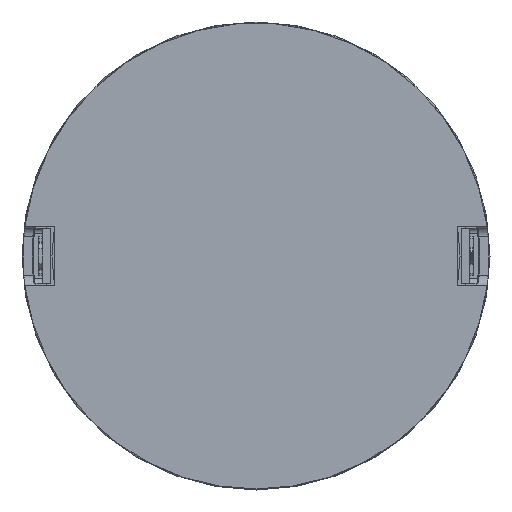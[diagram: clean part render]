
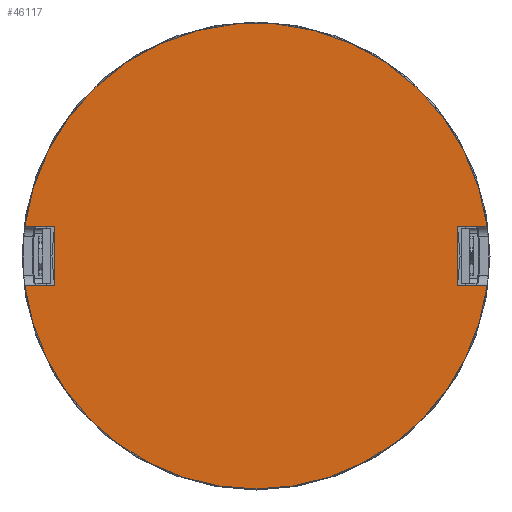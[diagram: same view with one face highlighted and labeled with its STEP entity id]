
A CAD part, front view. The second image highlights one B-rep face of the part: STEP entity #46117.
In plain terms, the highlighted planar face has unit normal (0, -1, 0).
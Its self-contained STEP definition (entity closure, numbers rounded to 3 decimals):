
#493 = DIRECTION ( 'NONE',  ( 0., -1., 0. ) ) ;
#1606 = DIRECTION ( 'NONE',  ( 0., 0., -1. ) ) ;
#2984 = PLANE ( 'NONE',  #97011 ) ;
#7033 = CARTESIAN_POINT ( 'NONE',  ( -37., -81.08, 5.5 ) ) ;
#13568 = DIRECTION ( 'NONE',  ( 0., -1., 0. ) ) ;
#17260 = VECTOR ( 'NONE', #1606, 1000. ) ;
#17331 = CARTESIAN_POINT ( 'NONE',  ( 37., -81.08, -5.5 ) ) ;
#18997 = EDGE_CURVE ( 'NONE', #104712, #93857, #107321, .T. ) ;
#23590 = CARTESIAN_POINT ( 'NONE',  ( 37., -81.08, -5.5 ) ) ;
#24055 = VECTOR ( 'NONE', #70528, 1000. ) ;
#29225 = CARTESIAN_POINT ( 'NONE',  ( -37., -81.08, 5.5 ) ) ;
#30011 = ORIENTED_EDGE ( 'NONE', *, *, #86126, .F. ) ;
#30545 = CARTESIAN_POINT ( 'NONE',  ( 0., -81.08, 0. ) ) ;
#33012 = CARTESIAN_POINT ( 'NONE',  ( 0., -81.08, 0. ) ) ;
#38612 = FACE_OUTER_BOUND ( 'NONE', #44935, .T. ) ;
#39006 = EDGE_CURVE ( 'NONE', #111892, #93857, #106182, .T. ) ;
#44678 = CARTESIAN_POINT ( 'NONE',  ( 0., -81.08, 5.5 ) ) ;
#44935 = EDGE_LOOP ( 'NONE', ( #69344, #30011, #73435, #56126, #96721, #118951, #59610, #96232 ) ) ;
#45025 = CARTESIAN_POINT ( 'NONE',  ( 42.445, -81.08, -5.5 ) ) ;
#46117 = ADVANCED_FACE ( 'NONE', ( #38612 ), #2984, .T. ) ;
#48037 = EDGE_CURVE ( 'NONE', #64872, #90675, #80884, .T. ) ;
#48738 = DIRECTION ( 'NONE',  ( 0., 0., -1. ) ) ;
#49786 = LINE ( 'NONE', #79426, #24055 ) ;
#53229 = EDGE_CURVE ( 'NONE', #96401, #90675, #54862, .T. ) ;
#53543 = AXIS2_PLACEMENT_3D ( 'NONE', #30545, #493, #48738 ) ;
#54862 = CIRCLE ( 'NONE', #53543, 42.8 ) ;
#55165 = LINE ( 'NONE', #97676, #17260 ) ;
#56126 = ORIENTED_EDGE ( 'NONE', *, *, #39006, .T. ) ;
#58551 = DIRECTION ( 'NONE',  ( 0., 0., -1. ) ) ;
#58692 = DIRECTION ( 'NONE',  ( -1., 0., 0. ) ) ;
#59610 = ORIENTED_EDGE ( 'NONE', *, *, #106199, .F. ) ;
#64872 = VERTEX_POINT ( 'NONE', #29225 ) ;
#66972 = VECTOR ( 'NONE', #122417, 1000. ) ;
#68328 = DIRECTION ( 'NONE',  ( 0., -1., 0. ) ) ;
#68531 = LINE ( 'NONE', #7033, #118344 ) ;
#69344 = ORIENTED_EDGE ( 'NONE', *, *, #48037, .F. ) ;
#70001 = CARTESIAN_POINT ( 'NONE',  ( -42.445, -81.08, -5.5 ) ) ;
#70528 = DIRECTION ( 'NONE',  ( 1., 0., 0. ) ) ;
#71423 = AXIS2_PLACEMENT_3D ( 'NONE', #106384, #68328, #58551 ) ;
#73435 = ORIENTED_EDGE ( 'NONE', *, *, #110692, .F. ) ;
#76168 = CARTESIAN_POINT ( 'NONE',  ( -42.445, -81.08, 5.5 ) ) ;
#79317 = VECTOR ( 'NONE', #58692, 1000. ) ;
#79426 = CARTESIAN_POINT ( 'NONE',  ( 0., -81.08, -5.5 ) ) ;
#80884 = LINE ( 'NONE', #107750, #79317 ) ;
#81265 = VERTEX_POINT ( 'NONE', #106487 ) ;
#85491 = CARTESIAN_POINT ( 'NONE',  ( 37., -81.08, 5.5 ) ) ;
#85556 = CARTESIAN_POINT ( 'NONE',  ( 42.445, -81.08, 5.5 ) ) ;
#86126 = EDGE_CURVE ( 'NONE', #81265, #64872, #68531, .T. ) ;
#89289 = DIRECTION ( 'NONE',  ( 0., 0., -1. ) ) ;
#90675 = VERTEX_POINT ( 'NONE', #76168 ) ;
#92145 = VECTOR ( 'NONE', #113343, 1000. ) ;
#93857 = VERTEX_POINT ( 'NONE', #45025 ) ;
#96232 = ORIENTED_EDGE ( 'NONE', *, *, #53229, .T. ) ;
#96401 = VERTEX_POINT ( 'NONE', #85556 ) ;
#96721 = ORIENTED_EDGE ( 'NONE', *, *, #18997, .F. ) ;
#97011 = AXIS2_PLACEMENT_3D ( 'NONE', #33012, #13568, #89289 ) ;
#97676 = CARTESIAN_POINT ( 'NONE',  ( 37., -81.08, 5.5 ) ) ;
#103029 = DIRECTION ( 'NONE',  ( 0., 0., 1. ) ) ;
#104381 = VERTEX_POINT ( 'NONE', #85491 ) ;
#104712 = VERTEX_POINT ( 'NONE', #23590 ) ;
#106182 = CIRCLE ( 'NONE', #71423, 42.8 ) ;
#106199 = EDGE_CURVE ( 'NONE', #96401, #104381, #112273, .T. ) ;
#106384 = CARTESIAN_POINT ( 'NONE',  ( 0., -81.08, 0. ) ) ;
#106487 = CARTESIAN_POINT ( 'NONE',  ( -37., -81.08, -5.5 ) ) ;
#107321 = LINE ( 'NONE', #17331, #92145 ) ;
#107750 = CARTESIAN_POINT ( 'NONE',  ( -37., -81.08, 5.5 ) ) ;
#110692 = EDGE_CURVE ( 'NONE', #111892, #81265, #49786, .T. ) ;
#111892 = VERTEX_POINT ( 'NONE', #70001 ) ;
#112273 = LINE ( 'NONE', #44678, #66972 ) ;
#113343 = DIRECTION ( 'NONE',  ( 1., 0., 0. ) ) ;
#117050 = EDGE_CURVE ( 'NONE', #104381, #104712, #55165, .T. ) ;
#118344 = VECTOR ( 'NONE', #103029, 1000. ) ;
#118951 = ORIENTED_EDGE ( 'NONE', *, *, #117050, .F. ) ;
#122417 = DIRECTION ( 'NONE',  ( -1., 0., 0. ) ) ;
